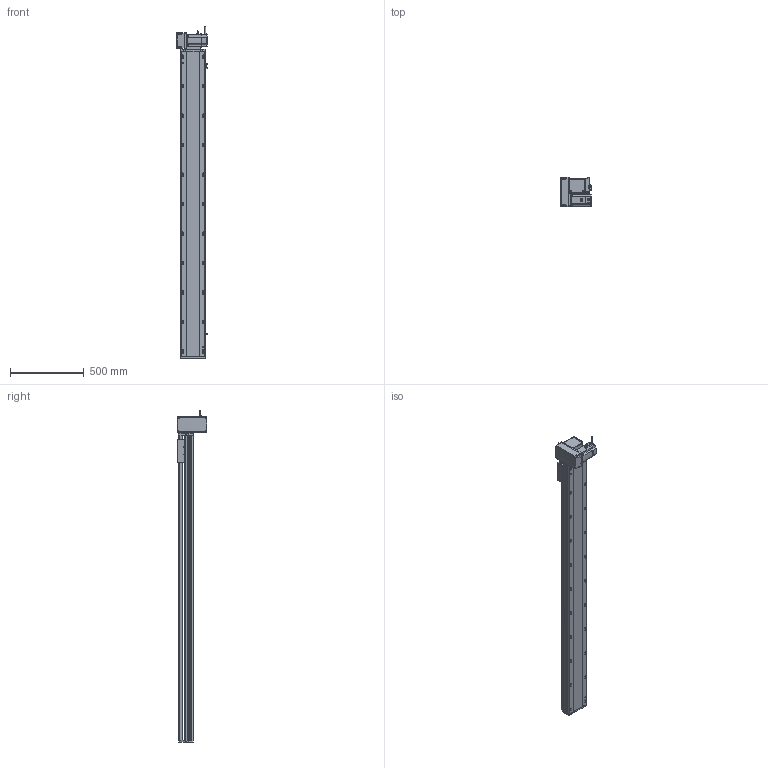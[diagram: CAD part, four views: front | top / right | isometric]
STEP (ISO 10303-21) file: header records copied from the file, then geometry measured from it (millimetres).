
FILE_DESCRIPTION (( 'STEP AP214' ), '1' );
FILE_NAME ('RTB17S-XX-1800-LM-M75-C4.STEP', '2025-12-12T00:43:03', ( '' ), ( '' ), 'SwSTEP 2.0', 'SolidWorks 2018', '' );
FILE_SCHEMA (( 'AUTOMOTIVE_DESIGN' ));
Length unit declared in the file: millimetre
Products named in the file (15): RTB22S-GY-018P^RTB17S-LM-々湍釱蚾饜-750W_RTB17S-XX-XX-LM-M75-C4; RTB22S-GY-005P^RTB17S-LM-々湍釱蚾饜-750W_RTB17S-XX-XX-LM-M75-C4; RTB17S-L-007奻裔^RTB17S-XX-XX-LM-M75-C4; RTB17S-L-014-T20-P75--々湍釱^RTB17S-LM-々湍釱蚾饜-750W_RTB17S-XX-XX-LM-M75-C4; EE672^RTB17S-XX-XX-LM-M75-C4; RTB22S-GY-017P^RTB17S-LM-々湍釱蚾饜-750W_RTB17S-XX-XX-LM-M75-C4; 750W萇儂^RTB17S-XX-XX-LM-M75-C4; RTB17S-賑釱^RTB17S-XX-XX-LM-M75-C4; RTH13-BL-012覜茼え俋离^RTB17S-賑釱_RTB17S-XX-XX-LM-M75-C4; RTB17S-L-004-賑釱^RTB17S-賑釱_RTB17S-XX-XX-LM-M75-C4; RTB22S-GY-008-M75--萇儂啣^RTB17S-LM-々湍釱蚾饜-750W_RTB17S-XX-XX-LM-M75-C4; RTB17-R-011菁釱^RTB17S-XX-XX-LM-M75-C4; RTB17S-LM-々湍釱蚾饜-750W^RTB17S-XX-XX-LM-M75-C4; RTB17S-XX-1800-LM-M75-C4; RTB17S-L-001-耜醱啣^RTB17S-XX-XX-LM-M75-C4
Assembly tree (17 placements, depth 3):
  RTB17S-XX-1800-LM-M75-C4
    RTB17-R-011菁釱^RTB17S-XX-XX-LM-M75-C4
    EE672^RTB17S-XX-XX-LM-M75-C4  x3
    RTB17S-L-001-耜醱啣^RTB17S-XX-XX-LM-M75-C4
    RTB17S-賑釱^RTB17S-XX-XX-LM-M75-C4
      RTB17S-L-004-賑釱^RTB17S-賑釱_RTB17S-XX-XX-LM-M75-C4
      RTH13-BL-012覜茼え俋离^RTB17S-賑釱_RTB17S-XX-XX-LM-M75-C4
    RTB17S-L-007奻裔^RTB17S-XX-XX-LM-M75-C4
    750W萇儂^RTB17S-XX-XX-LM-M75-C4
    RTB17S-LM-々湍釱蚾饜-750W^RTB17S-XX-XX-LM-M75-C4
      RTB17S-L-014-T20-P75--々湍釱^RTB17S-LM-々湍釱蚾饜-750W_RTB17S-XX-XX-LM-M75-C4
      RTB22S-GY-005P^RTB17S-LM-々湍釱蚾饜-750W_RTB17S-XX-XX-LM-M75-C4
      RTB22S-GY-017P^RTB17S-LM-々湍釱蚾饜-750W_RTB17S-XX-XX-LM-M75-C4  x2
      RTB22S-GY-008-M75--萇儂啣^RTB17S-LM-々湍釱蚾饜-750W_RTB17S-XX-XX-LM-M75-C4
      RTB22S-GY-018P^RTB17S-LM-々湍釱蚾饜-750W_RTB17S-XX-XX-LM-M75-C4
Bounding box: 210.4 x 200 x 2252.2 mm (x, y, z)
Volume: 17204687.3 mm3; surface area: 3052683.1 mm2
Topology: 17 solids, 17 shells, 2153 faces, 5998 edges, 3878 vertices
Faces by surface type: plane 978, cylinder 759, bspline 294, cone 110, sphere 8, torus 4
Entity records: 61174 total; most frequent: CARTESIAN_POINT 18062, ORIENTED_EDGE 8840, DIRECTION 8222, EDGE_CURVE 4420, AXIS2_PLACEMENT_3D 2898, VERTEX_POINT 2882, VECTOR 2426, LINE 2426
